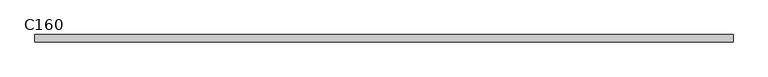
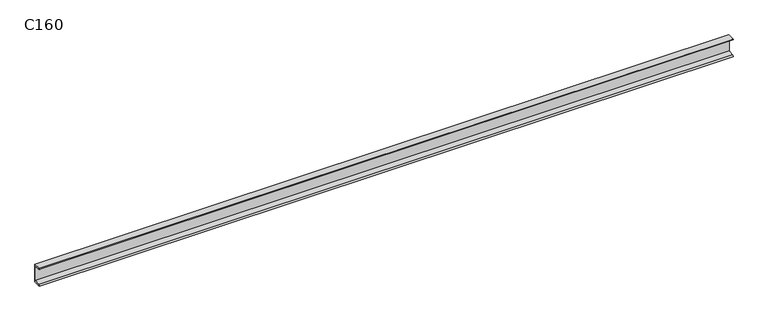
"""IFC4 building model written with IfcOpenShell, lengths in millimetres: beam geometry, RPLN C - Ceowniki normalne : C160."""

from ifc_helpers import new_model, si_unit, point, frame, frame_2d, origin, place, context, project, spatial, polyline, circle_curve, trimmed, segment, composite_curve, outline, extrude, source, transform, mapped, element, save


def c160_33551c21(model_context):
    return source(origin(), model_context, "Body", "SweptSolid", [
        extrude(outline(composite_curve([segment(polyline([(18.4, 80.0), (18.4, -80.0), (-46.6, -80.0)]), True, "CONTINUOUS"), segment(trimmed(circle_curve(frame_2d((-36.1, -80.0)), 10.5), [point((-46.6, -80.0))], [point((-36.1, -69.5))], False, "CARTESIAN"), True, "CONTINUOUS"), segment(polyline([(-36.1, -69.5), (10.9, -62.0559313), (10.9, 62.0559313), (-36.1, 69.5)]), True, "CONTINUOUS"), segment(trimmed(circle_curve(frame_2d((-36.1, 80.0)), 10.5), [point((-36.1, 69.5))], [point((-46.6, 80.0))], False, "CARTESIAN"), True, "CONTINUOUS"), segment(polyline([(-46.6, 80.0), (18.4, 80.0)]), True, "CONTINUOUS")], self_intersect=False)), frame((-2987.2999994, 0.0, 0.0), z_axis=(1.0, 0.0, 0.0), x_axis=(0.0, 1.0, 0.0)), (0.0, 0.0, 1.0), 5987.2999994),
    ])


if __name__ == "__main__":
    model = new_model("IFC4")
    model_context = context("Model", 3, world=origin())
    ifc_project = project(units=[si_unit("LENGTHUNIT", "METRE", prefix="MILLI")], contexts=[model_context])
    site = spatial("IfcSite", under=ifc_project)
    building = spatial("IfcBuilding", under=site)
    placement = place(None, origin())
    c160_shape = c160_33551c21(model_context)
    element("IfcBeam", 1, ObjectType="RPLN C - Ceowniki normalne : C160", at=placement, inside=building, context=model_context, shape_type="MappedRepresentation", body=[
        mapped(c160_shape, transform((0.0, 0.0, 0.0), x_axis=(1.0, 0.0, 0.0), y_axis=(0.0, 1.0, 0.0), z_axis=(0.0, 0.0, 1.0))),
    ])
    save(model, "model.ifc")
